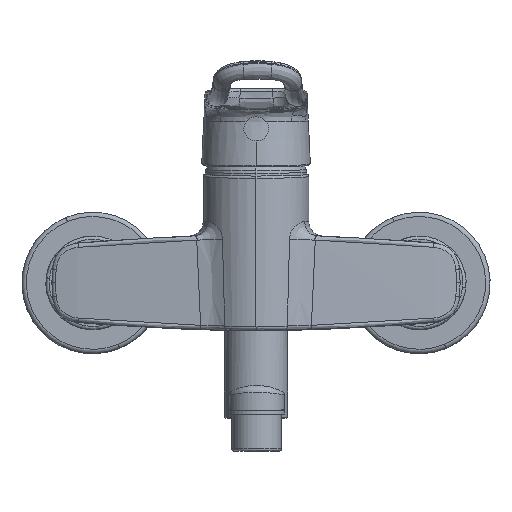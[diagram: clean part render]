
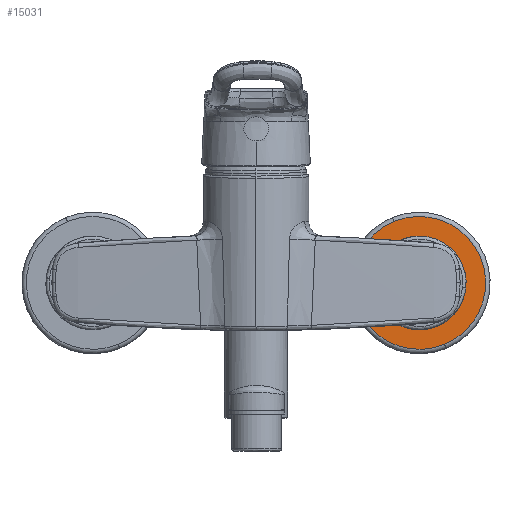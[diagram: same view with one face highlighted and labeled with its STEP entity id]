
A CAD part, top view. The second image highlights one B-rep face of the part: STEP entity #15031.
In plain terms, the highlighted planar face has unit normal (0, 0, 1).
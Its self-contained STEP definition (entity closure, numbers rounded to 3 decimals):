
#303 = ORIENTED_EDGE ( 'NONE', *, *, #20514, .T. ) ;
#712 = CARTESIAN_POINT ( 'NONE',  ( 74.999, 0., -26. ) ) ;
#992 = EDGE_LOOP ( 'NONE', ( #303, #14032 ) ) ;
#1158 = CARTESIAN_POINT ( 'NONE',  ( 94.87, 8.21, -26. ) ) ;
#1449 = EDGE_CURVE ( 'NONE', #22956, #21946, #10074, .T. ) ;
#1918 = CIRCLE ( 'NONE', #20381, 30.5 ) ;
#2624 = DIRECTION ( 'NONE',  ( 0.382, -0.924, 0. ) ) ;
#3055 = DIRECTION ( 'NONE',  ( 0., 0., 1. ) ) ;
#4749 = AXIS2_PLACEMENT_3D ( 'NONE', #14445, #3055, #4954 ) ;
#4954 = DIRECTION ( 'NONE',  ( 1., 0., 0. ) ) ;
#5485 = AXIS2_PLACEMENT_3D ( 'NONE', #9181, #11106, #24357 ) ;
#6302 = CARTESIAN_POINT ( 'NONE',  ( 63.353, 28.189, -26. ) ) ;
#6325 = EDGE_LOOP ( 'NONE', ( #7030, #21862 ) ) ;
#7030 = ORIENTED_EDGE ( 'NONE', *, *, #22916, .F. ) ;
#7162 = FACE_BOUND ( 'NONE', #6325, .T. ) ;
#8388 = VERTEX_POINT ( 'NONE', #6302 ) ;
#8707 = CARTESIAN_POINT ( 'NONE',  ( 74.999, 0., -26. ) ) ;
#9020 = PLANE ( 'NONE',  #5485 ) ;
#9181 = CARTESIAN_POINT ( 'NONE',  ( 74.999, 0., -26. ) ) ;
#9231 = DIRECTION ( 'NONE',  ( 0., 0., 1. ) ) ;
#10074 = CIRCLE ( 'NONE', #4749, 21.5 ) ;
#10628 = DIRECTION ( 'NONE',  ( 1., 0., 0. ) ) ;
#11106 = DIRECTION ( 'NONE',  ( 0., 0., 1. ) ) ;
#11504 = VERTEX_POINT ( 'NONE', #21312 ) ;
#14000 = DIRECTION ( 'NONE',  ( 0., 0., 1. ) ) ;
#14032 = ORIENTED_EDGE ( 'NONE', *, *, #17669, .T. ) ;
#14445 = CARTESIAN_POINT ( 'NONE',  ( 74.999, 0., -26. ) ) ;
#15031 = ADVANCED_FACE ( 'NONE', ( #7162, #21653 ), #9020, .T. ) ;
#16832 = AXIS2_PLACEMENT_3D ( 'NONE', #20610, #9231, #22509 ) ;
#17242 = CIRCLE ( 'NONE', #16832, 30.5 ) ;
#17318 = CIRCLE ( 'NONE', #18543, 21.5 ) ;
#17669 = EDGE_CURVE ( 'NONE', #8388, #11504, #17242, .T. ) ;
#18543 = AXIS2_PLACEMENT_3D ( 'NONE', #8707, #21982, #10628 ) ;
#20381 = AXIS2_PLACEMENT_3D ( 'NONE', #712, #14000, #2624 ) ;
#20514 = EDGE_CURVE ( 'NONE', #11504, #8388, #1918, .T. ) ;
#20610 = CARTESIAN_POINT ( 'NONE',  ( 74.999, 0., -26. ) ) ;
#21312 = CARTESIAN_POINT ( 'NONE',  ( 86.646, -28.189, -26. ) ) ;
#21653 = FACE_OUTER_BOUND ( 'NONE', #992, .T. ) ;
#21862 = ORIENTED_EDGE ( 'NONE', *, *, #1449, .F. ) ;
#21946 = VERTEX_POINT ( 'NONE', #23087 ) ;
#21982 = DIRECTION ( 'NONE',  ( 0., 0., 1. ) ) ;
#22509 = DIRECTION ( 'NONE',  ( 0.382, -0.924, 0. ) ) ;
#22916 = EDGE_CURVE ( 'NONE', #21946, #22956, #17318, .T. ) ;
#22956 = VERTEX_POINT ( 'NONE', #1158 ) ;
#23087 = CARTESIAN_POINT ( 'NONE',  ( 55.128, -8.21, -26. ) ) ;
#24357 = DIRECTION ( 'NONE',  ( 0.382, -0.924, 0. ) ) ;
